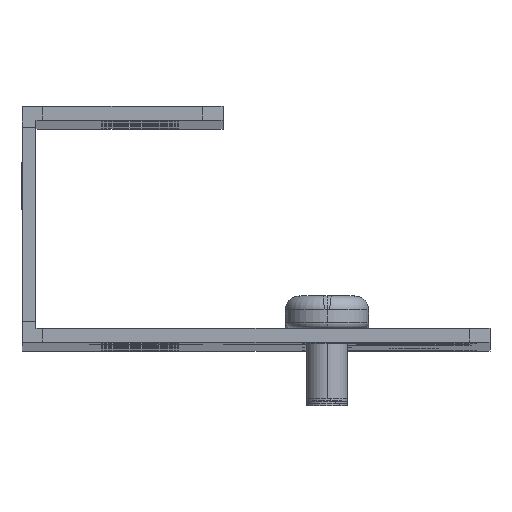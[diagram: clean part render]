
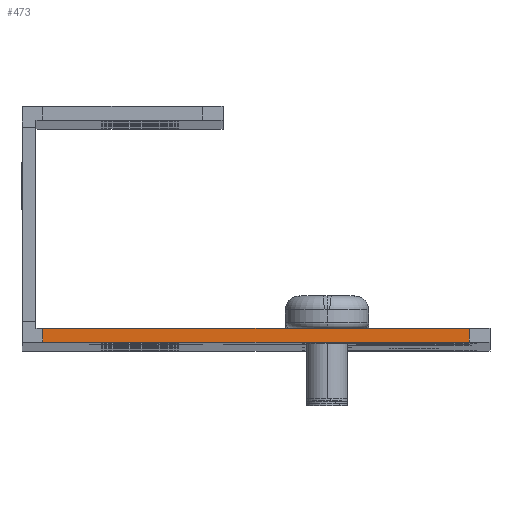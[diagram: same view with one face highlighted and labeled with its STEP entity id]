
A CAD part, top view. The second image highlights one B-rep face of the part: STEP entity #473.
In plain terms, the highlighted planar face has unit normal (0, 0, 1).
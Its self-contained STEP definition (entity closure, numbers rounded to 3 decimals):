
#212 = AXIS2_PLACEMENT_3D ( 'NONE', #8690, #1082, #1284 ) ;
#473 = ADVANCED_FACE ( 'NONE', ( #5076 ), #6549, .T. ) ;
#1082 = DIRECTION ( 'NONE',  ( 0., 0., 1. ) ) ;
#1284 = DIRECTION ( 'NONE',  ( 0., -1., 0. ) ) ;
#1334 = CARTESIAN_POINT ( 'NONE',  ( -64.5, -32., 0. ) ) ;
#1986 = EDGE_CURVE ( 'NONE', #2811, #9094, #9714, .T. ) ;
#2424 = VERTEX_POINT ( 'NONE', #4935 ) ;
#2811 = VERTEX_POINT ( 'NONE', #8047 ) ;
#3321 = CARTESIAN_POINT ( 'NONE',  ( -3., -32., 0. ) ) ;
#3619 = DIRECTION ( 'NONE',  ( 0., -1., 0. ) ) ;
#3694 = EDGE_CURVE ( 'NONE', #5337, #2424, #6884, .T. ) ;
#4205 = ORIENTED_EDGE ( 'NONE', *, *, #6101, .T. ) ;
#4360 = CARTESIAN_POINT ( 'NONE',  ( -64.5, -34., 0. ) ) ;
#4387 = EDGE_LOOP ( 'NONE', ( #8343, #4205, #8580, #7701 ) ) ;
#4935 = CARTESIAN_POINT ( 'NONE',  ( -3., -34., 0. ) ) ;
#5076 = FACE_OUTER_BOUND ( 'NONE', #4387, .T. ) ;
#5106 = VECTOR ( 'NONE', #3619, 1000. ) ;
#5337 = VERTEX_POINT ( 'NONE', #4360 ) ;
#5399 = DIRECTION ( 'NONE',  ( 0., 1., 0. ) ) ;
#5705 = VECTOR ( 'NONE', #9566, 1000. ) ;
#5892 = VECTOR ( 'NONE', #6741, 1000. ) ;
#6101 = EDGE_CURVE ( 'NONE', #2811, #5337, #7496, .T. ) ;
#6549 = PLANE ( 'NONE',  #212 ) ;
#6741 = DIRECTION ( 'NONE',  ( 1., 0., 0. ) ) ;
#6884 = LINE ( 'NONE', #7542, #5892 ) ;
#7430 = LINE ( 'NONE', #8369, #8236 ) ;
#7465 = CARTESIAN_POINT ( 'NONE',  ( -63.5, -32., 0. ) ) ;
#7496 = LINE ( 'NONE', #1334, #5106 ) ;
#7542 = CARTESIAN_POINT ( 'NONE',  ( -63.5, -34., 0. ) ) ;
#7701 = ORIENTED_EDGE ( 'NONE', *, *, #8592, .T. ) ;
#8047 = CARTESIAN_POINT ( 'NONE',  ( -64.5, -32., 0. ) ) ;
#8236 = VECTOR ( 'NONE', #5399, 1000. ) ;
#8343 = ORIENTED_EDGE ( 'NONE', *, *, #1986, .F. ) ;
#8369 = CARTESIAN_POINT ( 'NONE',  ( -3., -34., 0. ) ) ;
#8580 = ORIENTED_EDGE ( 'NONE', *, *, #3694, .T. ) ;
#8592 = EDGE_CURVE ( 'NONE', #2424, #9094, #7430, .T. ) ;
#8690 = CARTESIAN_POINT ( 'NONE',  ( -63.5, -34., 0. ) ) ;
#9094 = VERTEX_POINT ( 'NONE', #3321 ) ;
#9566 = DIRECTION ( 'NONE',  ( 1., 0., 0. ) ) ;
#9714 = LINE ( 'NONE', #7465, #5705 ) ;
